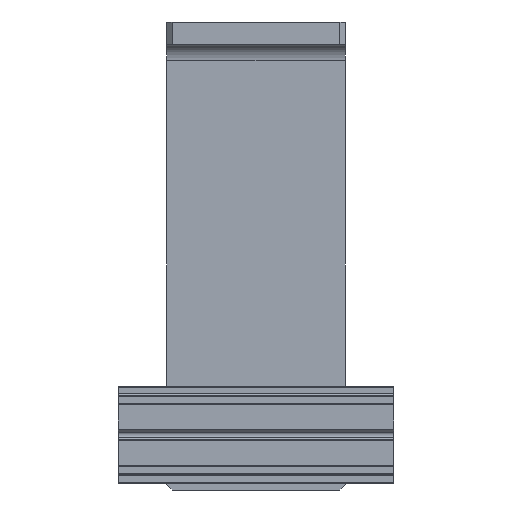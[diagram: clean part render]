
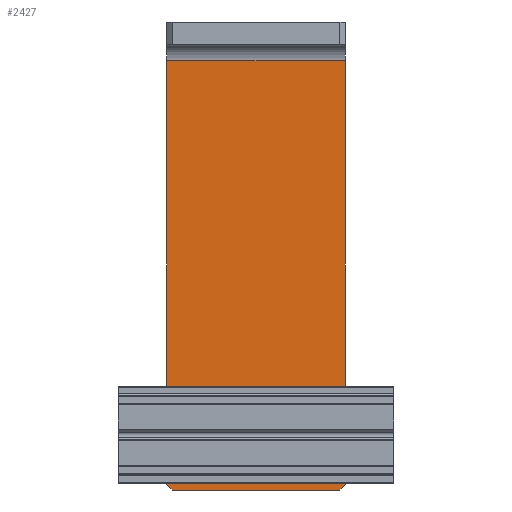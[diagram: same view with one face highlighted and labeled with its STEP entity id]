
A CAD part, front view. The second image highlights one B-rep face of the part: STEP entity #2427.
In plain terms, the highlighted planar face has unit normal (0, -1, 0).
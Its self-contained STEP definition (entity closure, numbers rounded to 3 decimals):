
#13 = CIRCLE ( 'NONE', #2796, 1.65 ) ;
#99 = CARTESIAN_POINT ( 'NONE',  ( 4.25, -8., -150. ) ) ;
#127 = DIRECTION ( 'NONE',  ( 0., 0., 1. ) ) ;
#156 = DIRECTION ( 'NONE',  ( 0., 0., -1. ) ) ;
#268 = DIRECTION ( 'NONE',  ( 0., 0., 1. ) ) ;
#345 = CARTESIAN_POINT ( 'NONE',  ( -4.25, -8., -147. ) ) ;
#410 = CARTESIAN_POINT ( 'NONE',  ( -30.5, -8., -170. ) ) ;
#458 = ORIENTED_EDGE ( 'NONE', *, *, #3838, .T. ) ;
#578 = VERTEX_POINT ( 'NONE', #1012 ) ;
#638 = EDGE_CURVE ( 'NONE', #4993, #2935, #4811, .T. ) ;
#659 = DIRECTION ( 'NONE',  ( 0., 0., 1. ) ) ;
#679 = DIRECTION ( 'NONE',  ( 0., 0., 1. ) ) ;
#687 = DIRECTION ( 'NONE',  ( 0., 1., 0. ) ) ;
#733 = FACE_BOUND ( 'NONE', #2152, .T. ) ;
#847 = ORIENTED_EDGE ( 'NONE', *, *, #4982, .T. ) ;
#880 = VECTOR ( 'NONE', #1134, 1000. ) ;
#888 = VERTEX_POINT ( 'NONE', #5014 ) ;
#898 = CARTESIAN_POINT ( 'NONE',  ( 32.5, -8., -91. ) ) ;
#905 = CIRCLE ( 'NONE', #4640, 4.25 ) ;
#949 = EDGE_CURVE ( 'NONE', #4833, #1437, #3738, .T. ) ;
#1012 = CARTESIAN_POINT ( 'NONE',  ( -22., -8., -148.35 ) ) ;
#1020 = CARTESIAN_POINT ( 'NONE',  ( -32.5, -8., -170. ) ) ;
#1025 = ORIENTED_EDGE ( 'NONE', *, *, #4994, .T. ) ;
#1101 = ORIENTED_EDGE ( 'NONE', *, *, #5315, .T. ) ;
#1102 = VERTEX_POINT ( 'NONE', #2996 ) ;
#1134 = DIRECTION ( 'NONE',  ( 1., 0., 0. ) ) ;
#1190 = CARTESIAN_POINT ( 'NONE',  ( -4.25, -8., -153. ) ) ;
#1207 = ORIENTED_EDGE ( 'NONE', *, *, #4415, .F. ) ;
#1218 = AXIS2_PLACEMENT_3D ( 'NONE', #1516, #4384, #659 ) ;
#1235 = ORIENTED_EDGE ( 'NONE', *, *, #1874, .T. ) ;
#1333 = VERTEX_POINT ( 'NONE', #2877 ) ;
#1355 = CARTESIAN_POINT ( 'NONE',  ( -32.5, -8., -91. ) ) ;
#1357 = VERTEX_POINT ( 'NONE', #4545 ) ;
#1437 = VERTEX_POINT ( 'NONE', #345 ) ;
#1448 = VERTEX_POINT ( 'NONE', #3700 ) ;
#1479 = EDGE_LOOP ( 'NONE', ( #458, #1616 ) ) ;
#1491 = DIRECTION ( 'NONE',  ( 0., 1., 0. ) ) ;
#1494 = CARTESIAN_POINT ( 'NONE',  ( -22., -8., -150. ) ) ;
#1516 = CARTESIAN_POINT ( 'NONE',  ( 0., -8., -147. ) ) ;
#1538 = LINE ( 'NONE', #2437, #880 ) ;
#1546 = FACE_OUTER_BOUND ( 'NONE', #4137, .T. ) ;
#1582 = DIRECTION ( 'NONE',  ( 0., 0., 1. ) ) ;
#1586 = VERTEX_POINT ( 'NONE', #2540 ) ;
#1616 = ORIENTED_EDGE ( 'NONE', *, *, #638, .T. ) ;
#1742 = CARTESIAN_POINT ( 'NONE',  ( 22., -8., -151.65 ) ) ;
#1807 = EDGE_CURVE ( 'NONE', #1586, #1448, #1538, .T. ) ;
#1811 = PLANE ( 'NONE',  #2494 ) ;
#1861 = CARTESIAN_POINT ( 'NONE',  ( 22., -8., -150. ) ) ;
#1869 = LINE ( 'NONE', #3522, #5049 ) ;
#1874 = EDGE_CURVE ( 'NONE', #3759, #1102, #4357, .T. ) ;
#2016 = CIRCLE ( 'NONE', #5152, 1.65 ) ;
#2135 = CARTESIAN_POINT ( 'NONE',  ( -4.25, -8., -150. ) ) ;
#2137 = CARTESIAN_POINT ( 'NONE',  ( 0., -8., -153. ) ) ;
#2152 = EDGE_LOOP ( 'NONE', ( #5311, #2431, #5279, #1235, #1025 ) ) ;
#2162 = DIRECTION ( 'NONE',  ( 0., 0., 1. ) ) ;
#2178 = LINE ( 'NONE', #99, #2370 ) ;
#2224 = CARTESIAN_POINT ( 'NONE',  ( 0., -8., -170. ) ) ;
#2238 = DIRECTION ( 'NONE',  ( 0., 1., 0. ) ) ;
#2303 = DIRECTION ( 'NONE',  ( -0.707, 0., 0.707 ) ) ;
#2354 = ORIENTED_EDGE ( 'NONE', *, *, #2911, .F. ) ;
#2370 = VECTOR ( 'NONE', #156, 1000. ) ;
#2427 = ADVANCED_FACE ( 'NONE', ( #733, #4741, #4307, #1546 ), #1811, .F. ) ;
#2431 = ORIENTED_EDGE ( 'NONE', *, *, #949, .T. ) ;
#2437 = CARTESIAN_POINT ( 'NONE',  ( -32.5, -8., -14. ) ) ;
#2494 = AXIS2_PLACEMENT_3D ( 'NONE', #1020, #4026, #4768 ) ;
#2508 = EDGE_CURVE ( 'NONE', #3938, #578, #4576, .T. ) ;
#2540 = CARTESIAN_POINT ( 'NONE',  ( -32.5, -8., -14. ) ) ;
#2733 = EDGE_LOOP ( 'NONE', ( #3592, #4903 ) ) ;
#2772 = DIRECTION ( 'NONE',  ( 0., 1., 0. ) ) ;
#2796 = AXIS2_PLACEMENT_3D ( 'NONE', #1861, #687, #3078 ) ;
#2877 = CARTESIAN_POINT ( 'NONE',  ( 30.5, -8., -170. ) ) ;
#2911 = EDGE_CURVE ( 'NONE', #1357, #1586, #4233, .T. ) ;
#2935 = VERTEX_POINT ( 'NONE', #3090 ) ;
#2941 = VECTOR ( 'NONE', #3012, 1000. ) ;
#2945 = CARTESIAN_POINT ( 'NONE',  ( 0., -8., -142.75 ) ) ;
#2996 = CARTESIAN_POINT ( 'NONE',  ( 4.25, -8., -147. ) ) ;
#3012 = DIRECTION ( 'NONE',  ( 0., 0., 1. ) ) ;
#3025 = CARTESIAN_POINT ( 'NONE',  ( -22., -8., -150. ) ) ;
#3029 = EDGE_CURVE ( 'NONE', #888, #1333, #5191, .T. ) ;
#3078 = DIRECTION ( 'NONE',  ( 0., 0., 1. ) ) ;
#3090 = CARTESIAN_POINT ( 'NONE',  ( 22., -8., -148.35 ) ) ;
#3178 = AXIS2_PLACEMENT_3D ( 'NONE', #3025, #2238, #3907 ) ;
#3364 = LINE ( 'NONE', #2224, #3369 ) ;
#3369 = VECTOR ( 'NONE', #3888, 1000. ) ;
#3522 = CARTESIAN_POINT ( 'NONE',  ( -31.5, -8., -169. ) ) ;
#3527 = DIRECTION ( 'NONE',  ( -0.707, 0., -0.707 ) ) ;
#3563 = CIRCLE ( 'NONE', #1218, 4.25 ) ;
#3571 = AXIS2_PLACEMENT_3D ( 'NONE', #4452, #3718, #5374 ) ;
#3592 = ORIENTED_EDGE ( 'NONE', *, *, #4672, .T. ) ;
#3700 = CARTESIAN_POINT ( 'NONE',  ( 32.5, -8., -14. ) ) ;
#3718 = DIRECTION ( 'NONE',  ( 0., 1., 0. ) ) ;
#3738 = LINE ( 'NONE', #2135, #4599 ) ;
#3759 = VERTEX_POINT ( 'NONE', #2945 ) ;
#3768 = EDGE_CURVE ( 'NONE', #4600, #4833, #905, .T. ) ;
#3838 = EDGE_CURVE ( 'NONE', #2935, #4993, #13, .T. ) ;
#3888 = DIRECTION ( 'NONE',  ( 1., 0., 0. ) ) ;
#3907 = DIRECTION ( 'NONE',  ( 0., 0., 1. ) ) ;
#3938 = VERTEX_POINT ( 'NONE', #4767 ) ;
#4020 = VECTOR ( 'NONE', #127, 1000. ) ;
#4021 = CARTESIAN_POINT ( 'NONE',  ( 22., -8., -150. ) ) ;
#4026 = DIRECTION ( 'NONE',  ( 0., 1., 0. ) ) ;
#4137 = EDGE_LOOP ( 'NONE', ( #5338, #2354, #1207, #1101, #5305, #847 ) ) ;
#4233 = LINE ( 'NONE', #1355, #2941 ) ;
#4307 = FACE_BOUND ( 'NONE', #2733, .T. ) ;
#4357 = CIRCLE ( 'NONE', #3571, 4.25 ) ;
#4384 = DIRECTION ( 'NONE',  ( 0., 1., 0. ) ) ;
#4415 = EDGE_CURVE ( 'NONE', #4441, #1357, #1869, .T. ) ;
#4441 = VERTEX_POINT ( 'NONE', #410 ) ;
#4452 = CARTESIAN_POINT ( 'NONE',  ( 0., -8., -147. ) ) ;
#4545 = CARTESIAN_POINT ( 'NONE',  ( -32.5, -8., -168. ) ) ;
#4576 = CIRCLE ( 'NONE', #3178, 1.65 ) ;
#4599 = VECTOR ( 'NONE', #1582, 1000. ) ;
#4600 = VERTEX_POINT ( 'NONE', #4818 ) ;
#4625 = LINE ( 'NONE', #898, #4020 ) ;
#4640 = AXIS2_PLACEMENT_3D ( 'NONE', #2137, #5015, #2162 ) ;
#4644 = EDGE_CURVE ( 'NONE', #1437, #3759, #3563, .T. ) ;
#4672 = EDGE_CURVE ( 'NONE', #578, #3938, #2016, .T. ) ;
#4741 = FACE_BOUND ( 'NONE', #1479, .T. ) ;
#4767 = CARTESIAN_POINT ( 'NONE',  ( -22., -8., -151.65 ) ) ;
#4768 = DIRECTION ( 'NONE',  ( 0., 0., 1. ) ) ;
#4811 = CIRCLE ( 'NONE', #5069, 1.65 ) ;
#4818 = CARTESIAN_POINT ( 'NONE',  ( 4.25, -8., -153. ) ) ;
#4833 = VERTEX_POINT ( 'NONE', #1190 ) ;
#4903 = ORIENTED_EDGE ( 'NONE', *, *, #2508, .T. ) ;
#4982 = EDGE_CURVE ( 'NONE', #888, #1448, #4625, .T. ) ;
#4993 = VERTEX_POINT ( 'NONE', #1742 ) ;
#4994 = EDGE_CURVE ( 'NONE', #1102, #4600, #2178, .T. ) ;
#5014 = CARTESIAN_POINT ( 'NONE',  ( 32.5, -8., -168. ) ) ;
#5015 = DIRECTION ( 'NONE',  ( 0., 1., 0. ) ) ;
#5049 = VECTOR ( 'NONE', #2303, 1000. ) ;
#5069 = AXIS2_PLACEMENT_3D ( 'NONE', #4021, #1491, #679 ) ;
#5152 = AXIS2_PLACEMENT_3D ( 'NONE', #1494, #2772, #268 ) ;
#5191 = LINE ( 'NONE', #5295, #5368 ) ;
#5279 = ORIENTED_EDGE ( 'NONE', *, *, #4644, .T. ) ;
#5295 = CARTESIAN_POINT ( 'NONE',  ( 31.5, -8., -169. ) ) ;
#5305 = ORIENTED_EDGE ( 'NONE', *, *, #3029, .F. ) ;
#5311 = ORIENTED_EDGE ( 'NONE', *, *, #3768, .T. ) ;
#5315 = EDGE_CURVE ( 'NONE', #4441, #1333, #3364, .T. ) ;
#5338 = ORIENTED_EDGE ( 'NONE', *, *, #1807, .F. ) ;
#5368 = VECTOR ( 'NONE', #3527, 1000. ) ;
#5374 = DIRECTION ( 'NONE',  ( 0., 0., 1. ) ) ;
